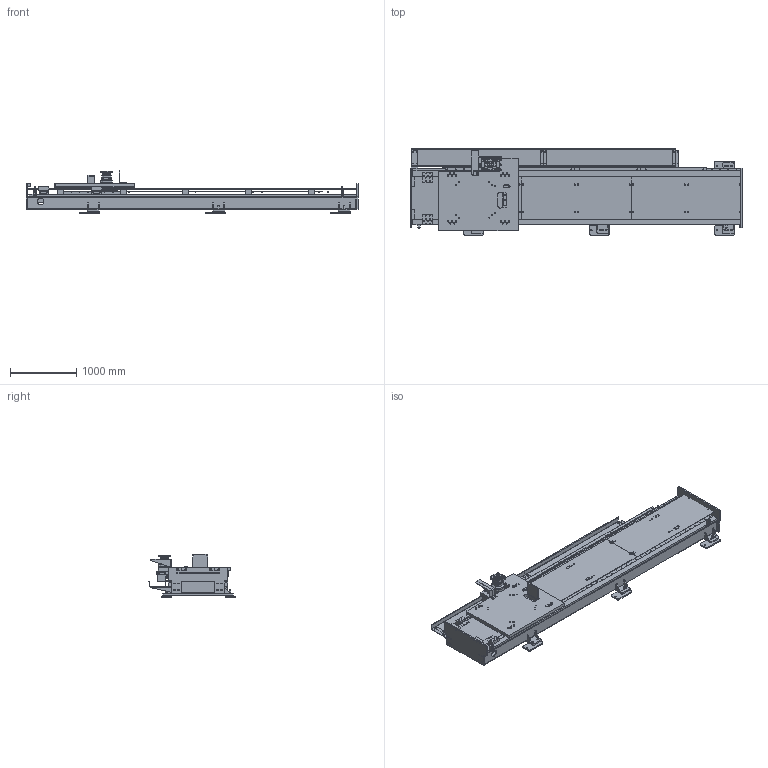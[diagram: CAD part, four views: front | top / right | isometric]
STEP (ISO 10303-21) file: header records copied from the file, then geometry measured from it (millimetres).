
FILE_DESCRIPTION (( 'STEP AP203' ), '1' );
FILE_NAME ('梓袧2000kg迍蟈俋离唳.STEP', '2021-10-14T01:29:31', ( '' ), ( '' ), 'SwSTEP 2.0', 'SolidWorks 2018', '' );
FILE_SCHEMA (( 'CONFIG_CONTROL_DESIGN' ));
Length unit declared in the file: millimetre
Products named in the file (43): 65-45樓Ч踐; 啣1; 寢耋爾諉遺殤; ST02机器人载板; 梓袧2000kg迍蟈俋离唳; 2000  650豪恇啣; 煦蚐ん; 滅誘盓傅啣; MA16014215101; 笢潔撻倛奪; 润滑; 菁窒遺殤5000; 樓詢U倰輸; 華寢蟀諉啣; HGH45CA賑輸; 迍蟈羞; circlips for shaft--type a large gb_GB_CONNECTING_PIECE_RING_RRA 12; AB180-20-S2-P1; 華褐啣; 華褐菜啣; 熬厒儂假蚾啣; 迍蟈盓殤; 絳寢喘沭假蚾啣; 润滑齿轮轴; 華寢華褐; 润滑轮M4  T17; MA16014215108; 润滑安装座; 絳寢假蚾啣; 萇儂假蚾啣160; hex thin nuts-grades ab-chamfered gb_GB_FASTENER_NUT_STNAB M10-N; 喘謫滅誘啣; 癹弇結啣; M20蹟裝; CHTGH04010; MA16014215304; 癹弇羲壽尨砩; 覃誹啣; 5米地轨框架_默认<按加工>; 迍蟈盓傅啣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
Assembly tree (98 placements, depth 4):
  梓袧2000kg迍蟈俋离唳
    ST02机器人载板
    HGH45CA賑輸  x4
    CHTGH04010
    樓詢U倰輸  x4
    癹弇結啣  x2
    MA16014215108  x9
    MA16014215101  x3
    熬厒儂假蚾啣
      萇儂假蚾啣160
      AB180-20-S2-P1
      helical gear_3_gb_GB - LH Helical gear 4M 25T 19°31′42″HA 20PA 40FW ---25B80H80L55.0R1
      啣1
    迍蟈盓殤
    迍蟈羞  x2
    MA16014215304
    滅袉菜  x2
    煦蚐ん
    癹弇羲壽尨砩  x2
    迍蟈盓傅啣  x3
    覃誹啣
    喘謫滅誘啣
    润滑
      circlips for shaft--type a large gb_GB_CONNECTING_PIECE_RING_RRA 12
      润滑齿轮轴
      润滑轮M4  T17
      hex thin nuts-grades ab-chamfered gb_GB_FASTENER_NUT_STNAB M10-N
      润滑安装座
    菁窒遺殤5000
      寢耋爾諉遺殤
        5米地轨框架_默认<按加工>
        絳寢假蚾啣
        華寢蟀諉啣
        絳寢喘沭假蚾啣
      笢潔撻倛奪  x6
      華寢華褐  x3
      65-45樓Ч踐  x12
    滅誘盓傅啣  x10
    2000  650豪恇啣  x3
    華褐啣  x5
      華褐菜啣
      M20蹟裝
    華褐啣
      華褐菜啣
Bounding box: 5025.29 x 1305 x 657.64 mm (x, y, z)
Volume: 232205016.2 mm3; surface area: 40347502 mm2
Topology: 99 solids, 114 shells, 4089 faces, 10530 edges, 6763 vertices
Faces by surface type: cylinder 1932, plane 1600, cone 287, bspline 190, torus 80
Entity records: 365230 total; most frequent: CARTESIAN_POINT 297080, DIRECTION 13180, ORIENTED_EDGE 12804, EDGE_CURVE 6425, AXIS2_PLACEMENT_3D 5161, VERTEX_POINT 4168, EDGE_LOOP 3281, VECTOR 2858
